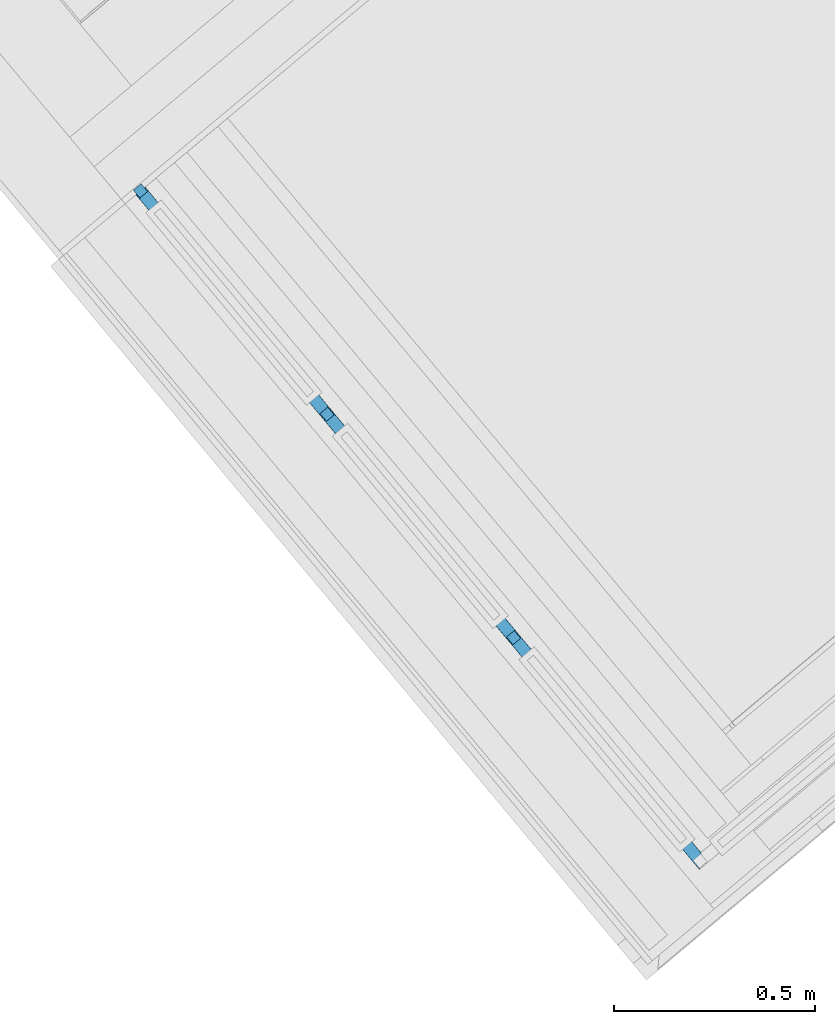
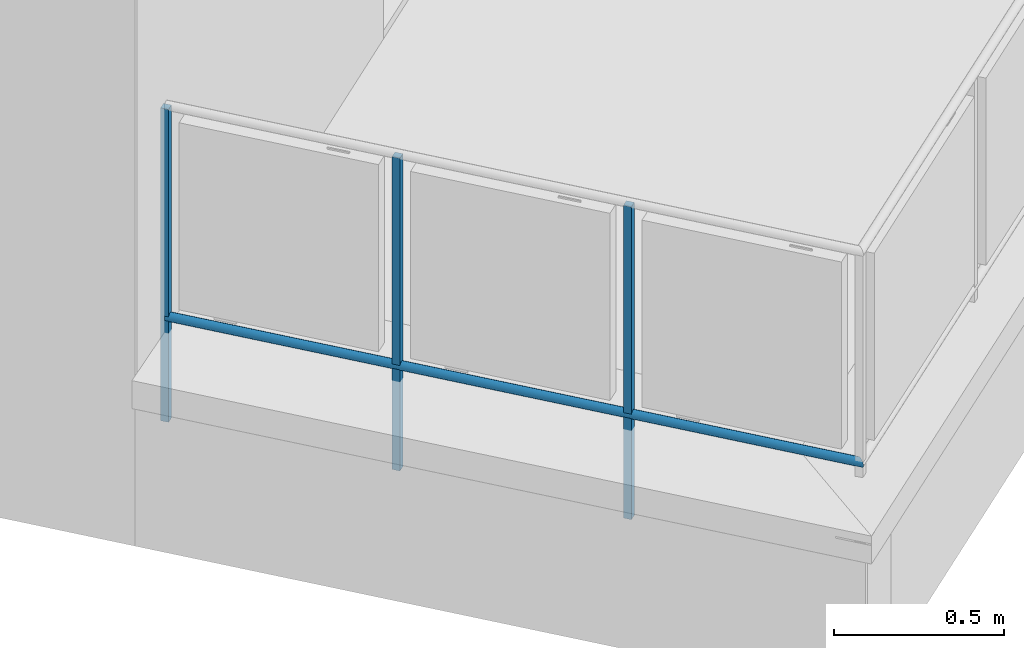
# One storey, part 14 of 50: 4 building element parts, 1 element without a shape of its own.
"""IFC4 building model written with IfcOpenShell, lengths in metres."""

from ifc_helpers import new_model, entity, si_unit, converted_unit, derived_unit, direction, frame, origin_with_axes, place, context, subcontext, project, spatial, polygons, material, type_object, element, aggregate, save


model = new_model("IFC4")

# Units and contexts
model_context = context("Model", 3, precision=1e-05, world=origin_with_axes(), true_north=direction((0.0, 1.0)))
body_context = subcontext(model_context, "Body", "Model", "MODEL_VIEW")
ifc_project = project(units=[si_unit("LENGTHUNIT", "METRE"), si_unit("AREAUNIT", "SQUARE_METRE"), si_unit("VOLUMEUNIT", "CUBIC_METRE"), converted_unit("PLANEANGLEUNIT", "DEGREE", entity("IfcPlaneAngleMeasure", 0.0174532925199), si_unit("PLANEANGLEUNIT", "RADIAN"), dimensions=[0, 0, 0, 0, 0, 0, 0]), converted_unit("TIMEUNIT", "Year", entity("IfcTimeMeasure", 31556926.0), si_unit("TIMEUNIT", "SECOND"), dimensions=[0, 0, 1, 0, 0, 0, 0]), si_unit("MASSUNIT", "GRAM", prefix="KILO"), si_unit("THERMODYNAMICTEMPERATUREUNIT", "DEGREE_CELSIUS"), si_unit("LUMINOUSINTENSITYUNIT", "LUMEN"), si_unit("ENERGYUNIT", "JOULE", prefix="MEGA"), derived_unit("THERMALCONDUCTANCEUNIT", [(si_unit("POWERUNIT", "WATT"), 1), (si_unit("LENGTHUNIT", "METRE"), -1), (si_unit("THERMODYNAMICTEMPERATUREUNIT", "KELVIN"), -1)]), derived_unit("SPECIFICHEATCAPACITYUNIT", [(si_unit("ENERGYUNIT", "JOULE"), 1), (si_unit("MASSUNIT", "GRAM", prefix="KILO"), -1), (si_unit("THERMODYNAMICTEMPERATUREUNIT", "KELVIN"), -1)]), derived_unit("MASSDENSITYUNIT", [(si_unit("MASSUNIT", "GRAM", prefix="KILO"), 1), (si_unit("VOLUMEUNIT", "CUBIC_METRE"), -1)])], contexts=[model_context])

# Site, building, storey
site_placement = place(None, frame((-0.00153261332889, -0.00661245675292, 0.0), z_axis=(0.0, 0.0, 1.0), x_axis=(1.0, 0.0, 0.0)))
site = spatial("IfcSite", under=ifc_project, at=site_placement, Name="Site", CompositionType="ELEMENT")
building_placement = place(site_placement, origin_with_axes())
building = spatial("IfcBuilding", under=site, at=building_placement, Name="Building", CompositionType="ELEMENT")
storey_placement = place(building_placement, frame((0.0, 0.0, 2.74), z_axis=(0.0, 0.0, 1.0), x_axis=(1.0, 0.0, 0.0)))
storey = spatial("IfcBuildingStorey", under=building, at=storey_placement, Name="OG1", CompositionType="ELEMENT", Elevation=2.74)

# Railing, building element parts
railing_type = type_object("IfcRailingType", Name="Geländerart", PredefinedType="NOTDEFINED")
railing_placement = place(storey_placement, frame((-0.869246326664, 8.34153645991, 0.38), z_axis=(0.0, 0.0, 1.0), x_axis=(1.0, 0.0, 0.0)))
railing = element("IfcRailing", 1, at=railing_placement, inside=storey, type_object=railing_type, Name="Geländer - 001", PredefinedType="NOTDEFINED")
ifc_material = material(Name="Aluminium")
building_element_part_1_placement = place(railing_placement, origin_with_axes())
building_element_part_1 = element("IfcBuildingElementPart", 2, at=building_element_part_1_placement, material=ifc_material, Name="Aluminium", PredefinedType="NOTDEFINED", context=body_context, shape_type="Tessellation", body=[
    polygons([(0.0367645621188, 0.014478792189, -0.3), (0.0559540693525, 0.0305026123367, -0.3), (0.0559540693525, 0.0305026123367, 0.82), (0.0367645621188, 0.014478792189, 0.82), (0.020740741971, 0.0336682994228, -0.3), (0.0399302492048, 0.0496921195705, -0.3), (0.0399302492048, 0.0496921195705, 0.82), (0.020740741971, 0.0336682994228, 0.82)], [[[1, 2, 3, 4]], [[1, 5, 6, 2]], [[2, 6, 7, 3]], [[4, 3, 7, 8]], [[5, 1, 4, 8]], [[6, 5, 8, 7]]], closed=True),
])
building_element_part_2_placement = place(railing_placement, origin_with_axes())
building_element_part_2 = element("IfcBuildingElementPart", 3, at=building_element_part_2_placement, material=ifc_material, Name="Aluminium", PredefinedType="NOTDEFINED", context=body_context, shape_type="Tessellation", body=[
    polygons([(0.049861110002, 0.0416997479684, 0.07), (0.0496861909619, 0.0415536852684, 0.072604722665), (1.43042846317, -1.61196985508, 0.072604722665), (1.43045725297, -1.61164879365, 0.07), (0.0496861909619, 0.0415536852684, 0.067395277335), (0.0491667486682, 0.0411199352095, 0.0648696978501), (0.0483185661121, 0.0404116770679, 0.0625), (0.0471674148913, 0.0394504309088, 0.0603581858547), (0.0457482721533, 0.0382654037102, 0.0585093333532), (0.0441042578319, 0.0368926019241, 0.0570096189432), (0.0422853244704, 0.0353737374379, 0.0559046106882), (0.0403467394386, 0.0337549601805, 0.0552278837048), (0.0383474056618, 0.0320854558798, 0.055), (0.0363480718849, 0.030415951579, 0.0552278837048), (0.0344094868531, 0.0287971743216, 0.0559046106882), (0.0325905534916, 0.0272783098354, 0.0570096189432), (0.0309465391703, 0.0259055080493, 0.0585093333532), (0.0295273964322, 0.0247204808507, 0.0603581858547), (0.0283762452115, 0.0237592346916, 0.0625), (0.0275280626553, 0.02305097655, 0.0648696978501), (0.0270086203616, 0.0226172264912, 0.067395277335), (0.0268337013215, 0.0224711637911, 0.07), (0.0270086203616, 0.0226172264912, 0.072604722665), (0.0275280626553, 0.02305097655, 0.0751303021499), (0.0283762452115, 0.0237592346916, 0.0775), (0.0295273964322, 0.0247204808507, 0.0796418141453), (0.0309465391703, 0.0259055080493, 0.0814906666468), (0.0325905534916, 0.0272783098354, 0.0829903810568), (0.0344094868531, 0.0287971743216, 0.0840953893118), (0.0363480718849, 0.030415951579, 0.0847721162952), (0.0383474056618, 0.0320854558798, 0.085), (0.0403467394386, 0.0337549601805, 0.0847721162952), (0.0422853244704, 0.0353737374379, 0.0840953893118), (0.0441042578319, 0.0368926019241, 0.0829903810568), (0.0457482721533, 0.0382654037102, 0.0814906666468), (0.0471674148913, 0.0394504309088, 0.0796418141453), (0.0483185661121, 0.0404116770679, 0.0775), (0.0491667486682, 0.0411199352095, 0.0751303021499), (1.43034296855, -1.61292328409, 0.0751303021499), (1.43020336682, -1.61448011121, 0.0775), (1.43001389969, -1.61659303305, 0.0796418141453), (1.42978032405, -1.61919784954, 0.0814906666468), (1.42950973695, -1.62221541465, 0.0829903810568), (1.42921036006, -1.62555404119, 0.0840953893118), (1.42889128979, -1.62911228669, 0.0847721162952), (1.42856222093, -1.63278203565, 0.085), (1.42823315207, -1.63645178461, 0.0847721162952), (1.4279140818, -1.64001003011, 0.0840953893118), (1.42761470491, -1.64334865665, 0.0829903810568), (1.42734411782, -1.64636622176, 0.0814906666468), (1.42711054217, -1.64897103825, 0.0796418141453), (1.42692107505, -1.65108396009, 0.0775), (1.42678147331, -1.65264078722, 0.0751303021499), (1.42669597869, -1.65359421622, 0.072604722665), (1.42666718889, -1.65391527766, 0.07), (1.42669597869, -1.65359421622, 0.067395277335), (1.42678147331, -1.65264078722, 0.0648696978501), (1.42692107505, -1.65108396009, 0.0625), (1.42711054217, -1.64897103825, 0.0603581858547), (1.42734411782, -1.64636622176, 0.0585093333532), (1.42761470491, -1.64334865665, 0.0570096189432), (1.4279140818, -1.64001003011, 0.0559046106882), (1.42823315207, -1.63645178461, 0.0552278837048), (1.42856222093, -1.63278203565, 0.055), (1.42889128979, -1.62911228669, 0.0552278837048), (1.42921036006, -1.62555404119, 0.0559046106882), (1.42950973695, -1.62221541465, 0.0570096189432), (1.42978032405, -1.61919784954, 0.0585093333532), (1.43001389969, -1.61659303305, 0.0603581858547), (1.43020336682, -1.61448011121, 0.0625), (1.43034296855, -1.61292328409, 0.0648696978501), (1.43042846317, -1.61196985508, 0.067395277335)], [[[1, 2, 3, 4]], [[1, 5, 6, 7, 8, 9, 10, 11, 12, 13, 14, 15, 16, 17, 18, 19, 20, 21, 22, 23, 24, 25, 26, 27, 28, 29, 30, 31, 32, 33, 34, 35, 36, 37, 38, 2]], [[2, 38, 39, 3]], [[4, 3, 39, 40, 41, 42, 43, 44, 45, 46, 47, 48, 49, 50, 51, 52, 53, 54, 55, 56, 57, 58, 59, 60, 61, 62, 63, 64, 65, 66, 67, 68, 69, 70, 71, 72]], [[5, 1, 4, 72]], [[6, 5, 72, 71]], [[7, 6, 71, 70]], [[8, 7, 70, 69]], [[9, 8, 69, 68]], [[10, 9, 68, 67]], [[11, 10, 67, 66]], [[12, 11, 66, 65]], [[13, 12, 65, 64]], [[14, 13, 64, 63]], [[15, 14, 63, 62]], [[16, 15, 62, 61]], [[17, 16, 61, 60]], [[18, 17, 60, 59]], [[19, 18, 59, 58]], [[20, 19, 58, 57]], [[21, 20, 57, 56]], [[22, 21, 56, 55]], [[23, 22, 55, 54]], [[24, 23, 54, 53]], [[25, 24, 53, 52]], [[26, 25, 52, 51]], [[27, 26, 51, 50]], [[28, 27, 50, 49]], [[29, 28, 49, 48]], [[30, 29, 48, 47]], [[31, 30, 47, 46]], [[32, 31, 46, 45]], [[33, 32, 45, 44]], [[34, 33, 44, 43]], [[35, 34, 43, 42]], [[36, 35, 42, 41]], [[37, 36, 41, 40]], [[38, 37, 40, 39]]], closed=True),
])
building_element_part_3_placement = place(railing_placement, origin_with_axes())
building_element_part_3 = element("IfcBuildingElementPart", 4, at=building_element_part_3_placement, material=ifc_material, Name="Aluminium", PredefinedType="NOTDEFINED", context=body_context, shape_type="Tessellation", body=[
    polygons([(0.500169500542, -0.540477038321, -0.3), (0.519359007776, -0.524453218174, -0.3), (0.519359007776, -0.524453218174, 0.82), (0.500169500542, -0.540477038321, 0.82), (0.484145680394, -0.521287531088, -0.3), (0.503335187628, -0.50526371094, -0.3), (0.503335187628, -0.50526371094, 0.82), (0.484145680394, -0.521287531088, 0.82)], [[[1, 2, 3, 4]], [[1, 5, 6, 2]], [[2, 6, 7, 3]], [[4, 3, 7, 8]], [[5, 1, 4, 8]], [[6, 5, 8, 7]]], closed=True),
])
building_element_part_4_placement = place(railing_placement, origin_with_axes())
building_element_part_4 = element("IfcBuildingElementPart", 5, at=building_element_part_4_placement, material=ifc_material, Name="Aluminium", PredefinedType="NOTDEFINED", context=body_context, shape_type="Tessellation", body=[
    polygons([(0.963574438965, -1.09543286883, -0.3), (0.982763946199, -1.07940904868, -0.3), (0.982763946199, -1.07940904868, 0.82), (0.963574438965, -1.09543286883, 0.82), (0.947550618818, -1.0762433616, -0.3), (0.966740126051, -1.06021954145, -0.3), (0.966740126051, -1.06021954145, 0.82), (0.947550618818, -1.0762433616, 0.82)], [[[1, 2, 3, 4]], [[1, 5, 6, 2]], [[2, 6, 7, 3]], [[4, 3, 7, 8]], [[5, 1, 4, 8]], [[6, 5, 8, 7]]], closed=True),
])
aggregate(railing, [building_element_part_1, building_element_part_2, building_element_part_3, building_element_part_4])

save(model, "model.ifc")
